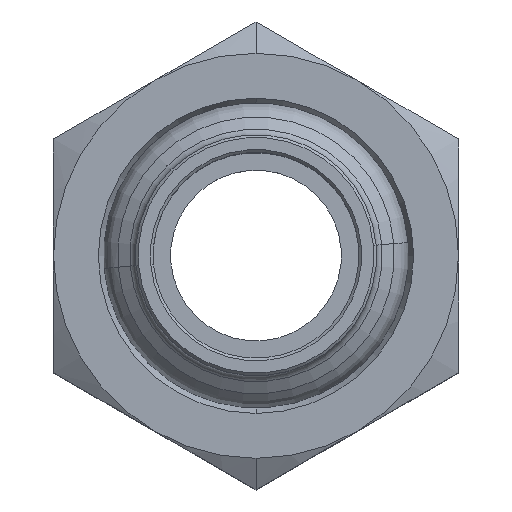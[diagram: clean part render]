
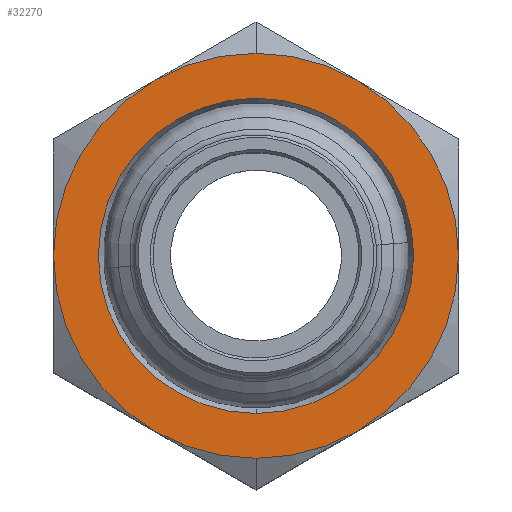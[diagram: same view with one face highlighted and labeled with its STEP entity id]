
A CAD part, top view. The second image highlights one B-rep face of the part: STEP entity #32270.
In plain terms, the highlighted planar face has unit normal (0, 0, 1) as drawn and (1, 0, 0) by its records, which use the part's own axes.
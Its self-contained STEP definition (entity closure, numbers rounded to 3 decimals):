
#19350=CARTESIAN_POINT('',(-57.194,103.88,0.));
#19360=DIRECTION('',(1.,0.,0.));
#19370=DIRECTION('',(0.,-1.,0.));
#19380=AXIS2_PLACEMENT_3D('',#19350,#19360,#19370);
#19390=CIRCLE('',#19380,15.);
#19400=CARTESIAN_POINT('',(-57.194,116.871,
-7.5));
#19410=VERTEX_POINT('',#19400);
#19420=CARTESIAN_POINT('',(-57.194,118.88,0.));
#19430=VERTEX_POINT('',#19420);
#19440=EDGE_CURVE('',#19410,#19430,#19390,.T.);
#20530=CARTESIAN_POINT('',(-57.194,103.88,15.));
#20540=VERTEX_POINT('',#20530);
#20590=CARTESIAN_POINT('',(-57.194,90.89,
7.5));
#20600=VERTEX_POINT('',#20590);
#20610=EDGE_CURVE('',#20540,#20600,#19390,.T.);
#21610=CARTESIAN_POINT('',(-57.194,90.89,
-7.5));
#21620=VERTEX_POINT('',#21610);
#21690=CARTESIAN_POINT('',(-57.194,88.88,
0.));
#21700=VERTEX_POINT('',#21690);
#21730=EDGE_CURVE('',#21700,#21620,#19390,.T.);
#27850=CARTESIAN_POINT('',(-57.194,103.88,-15.));
#27860=VERTEX_POINT('',#27850);
#30040=CARTESIAN_POINT('',(-57.194,116.871,
7.5));
#30050=VERTEX_POINT('',#30040);
#31920=CARTESIAN_POINT('',(-57.194,96.38,0.));
#31930=DIRECTION('',(1.,0.,0.));
#31940=DIRECTION('',(0.,-1.,0.));
#31950=AXIS2_PLACEMENT_3D('',#31920,#31930,#31940);
#31960=PLANE('',#31950);
#31970=EDGE_CURVE('',#20600,#21700,#19390,.T.);
#31980=ORIENTED_EDGE('',*,*,#31970,.T.);
#31990=ORIENTED_EDGE('',*,*,#20610,.T.);
#32000=EDGE_CURVE('',#30050,#20540,#19390,.T.);
#32010=ORIENTED_EDGE('',*,*,#32000,.T.);
#32020=EDGE_CURVE('',#19430,#30050,#19390,.T.);
#32030=ORIENTED_EDGE('',*,*,#32020,.T.);
#32040=ORIENTED_EDGE('',*,*,#19440,.T.);
#32050=EDGE_CURVE('',#27860,#19410,#19390,.T.);
#32060=ORIENTED_EDGE('',*,*,#32050,.T.);
#32070=EDGE_CURVE('',#21620,#27860,#19390,.T.);
#32080=ORIENTED_EDGE('',*,*,#32070,.T.);
#32090=ORIENTED_EDGE('',*,*,#21730,.T.);
#32100=EDGE_LOOP('',(#32090,#32080,#32060,#32040,#32030,#32010,#31990,
#31980));
#32110=FACE_OUTER_BOUND('',#32100,.T.);
#32120=CARTESIAN_POINT('',(-57.194,103.88,0.));
#32130=DIRECTION('',(1.,0.,0.));
#32140=DIRECTION('',(0.,-1.,0.));
#32150=AXIS2_PLACEMENT_3D('',#32120,#32130,#32140);
#32160=CIRCLE('',#32150,11.677);
#32170=CARTESIAN_POINT('',(-57.194,115.558,
0.));
#32180=VERTEX_POINT('',#32170);
#32190=CARTESIAN_POINT('',(-57.194,92.203,
0.));
#32200=VERTEX_POINT('',#32190);
#32210=EDGE_CURVE('',#32180,#32200,#32160,.T.);
#32220=ORIENTED_EDGE('',*,*,#32210,.F.);
#32230=EDGE_CURVE('',#32200,#32180,#32160,.T.);
#32240=ORIENTED_EDGE('',*,*,#32230,.F.);
#32250=EDGE_LOOP('',(#32240,#32220));
#32260=FACE_BOUND('',#32250,.T.);
#32270=ADVANCED_FACE('',(#32110,#32260),#31960,.T.);
